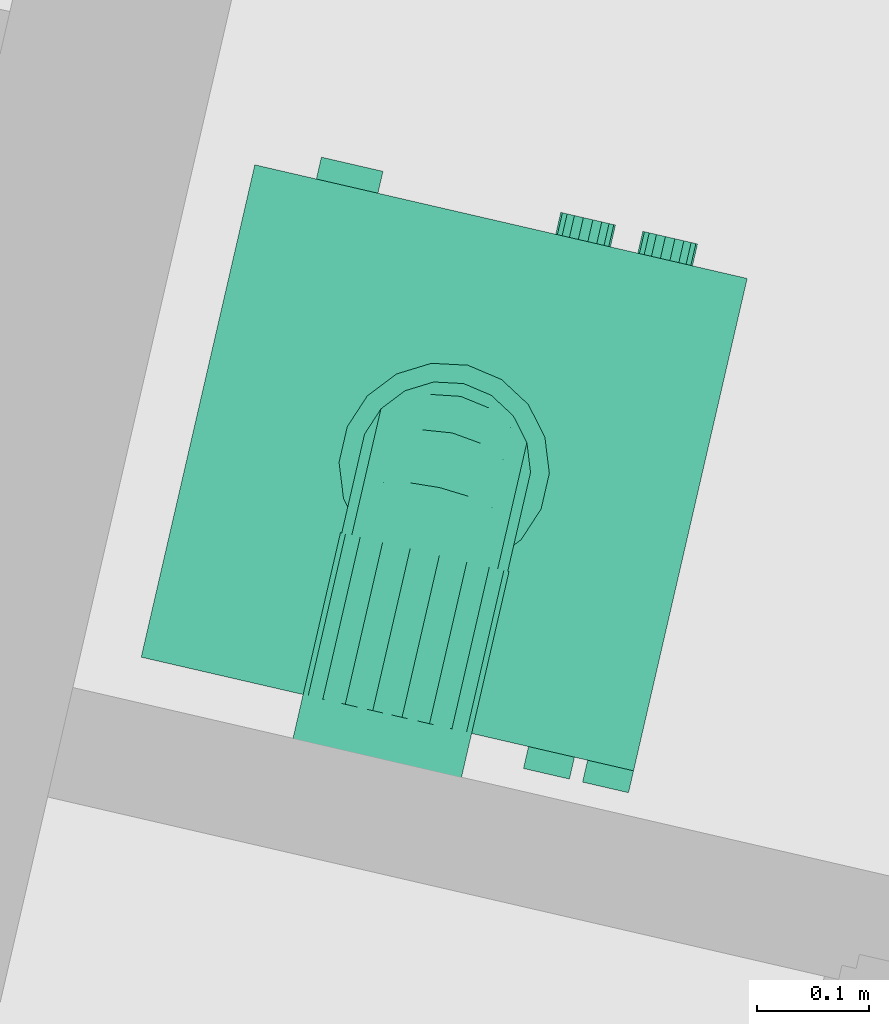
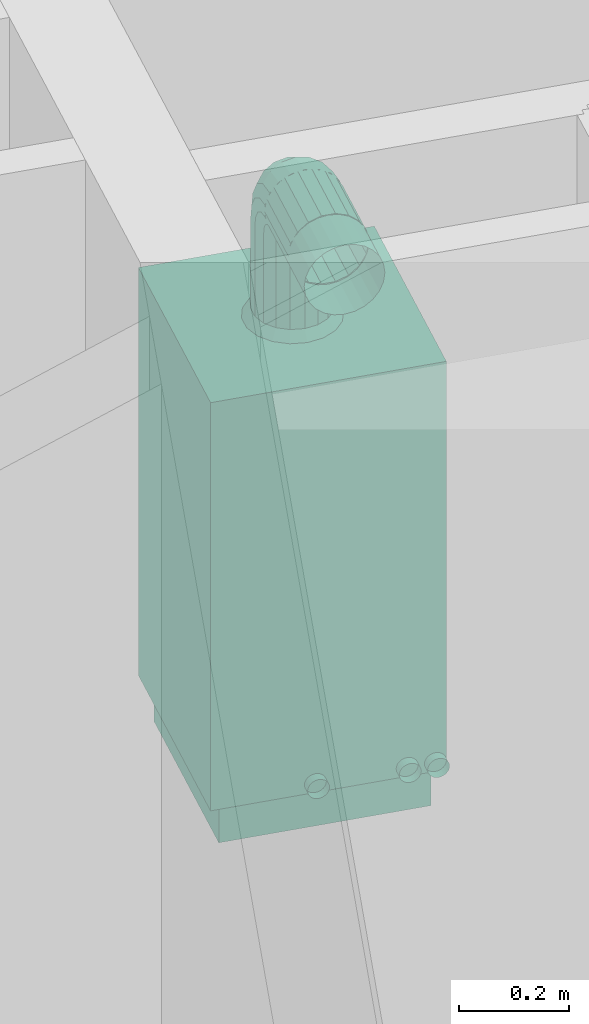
# One storey, part 48 of 62: 1 energy conversion device.
"""IFC2X3 building model written with IfcOpenShell, lengths in metres."""

from ifc_helpers import new_model, entity, si_unit, converted_unit, derived_unit, money_unit, direction, frame, origin_with_axes, place, context, subcontext, project, spatial, open_shell, faceted_brep, surface_model, source, transform, mapped, type_object, element, save


model = new_model("IFC2X3")

# Units and contexts
model_context = context("Model", 3, precision=1e-05, world=origin_with_axes(), true_north=direction((0.0, 1.0)))
body_context = subcontext(model_context, "Body", "Model", "MODEL_VIEW")
ifc_project = project(units=[si_unit("LENGTHUNIT", "METRE"), si_unit("AREAUNIT", "SQUARE_METRE"), si_unit("VOLUMEUNIT", "CUBIC_METRE"), converted_unit("PLANEANGLEUNIT", "DEGREE", entity("IfcPlaneAngleMeasure", 0.0174532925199), si_unit("PLANEANGLEUNIT", "RADIAN"), dimensions=[0, 0, 0, 0, 0, 0, 0]), si_unit("SOLIDANGLEUNIT", "STERADIAN"), money_unit("EUR"), converted_unit("TIMEUNIT", "Year", entity("IfcTimeMeasure", 31556926.0), si_unit("TIMEUNIT", "SECOND"), dimensions=[0, 0, 1, 0, 0, 0, 0]), si_unit("MASSUNIT", "GRAM", prefix="KILO"), si_unit("THERMODYNAMICTEMPERATUREUNIT", "DEGREE_CELSIUS"), si_unit("LUMINOUSINTENSITYUNIT", "LUMEN"), si_unit("ENERGYUNIT", "JOULE", prefix="MEGA"), derived_unit("THERMALCONDUCTANCEUNIT", [(si_unit("POWERUNIT", "WATT"), 1), (si_unit("LENGTHUNIT", "METRE"), -1), (si_unit("THERMODYNAMICTEMPERATUREUNIT", "KELVIN"), -1)]), derived_unit("SPECIFICHEATCAPACITYUNIT", [(si_unit("ENERGYUNIT", "JOULE"), 1), (si_unit("MASSUNIT", "GRAM", prefix="KILO"), -1), (si_unit("THERMODYNAMICTEMPERATUREUNIT", "KELVIN"), -1)]), derived_unit("MASSDENSITYUNIT", [(si_unit("MASSUNIT", "GRAM", prefix="KILO"), 1), (si_unit("VOLUMEUNIT", "CUBIC_METRE"), -1)])], contexts=[model_context])

# Site, building, storey
site_placement = place(None, origin_with_axes())
site = spatial("IfcSite", under=ifc_project, at=site_placement, Name="Site", CompositionType="ELEMENT")
building_placement = place(site_placement, origin_with_axes())
building = spatial("IfcBuilding", under=site, at=building_placement, Name="Bâtiment", CompositionType="ELEMENT")
storey_placement = place(building_placement, frame((0.0, 0.0, 8.16), z_axis=(0.0, 0.0, 1.0), x_axis=(1.0, 0.0, 0.0)))
storey = spatial("IfcBuildingStorey", under=building, at=storey_placement, Name="R+3", CompositionType="ELEMENT", Elevation=8.16)

# Energy conversion device
boiler_type = type_object("IfcBoilerType", Name="Chaudière à gaz 23", PredefinedType="WATER")
shared_shape = source(origin_with_axes(), body_context, "Body", "SurfaceModel", [
    surface_model("IfcShellBasedSurfaceModel", [(-0.2, 0.45, 0.090909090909), (-0.2, 0.47, 0.090909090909), (-0.194564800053, 0.47, 0.0916246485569), (-0.194564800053, 0.45, 0.0916246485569), (-0.205435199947, 0.45, 0.0916246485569), (-0.205435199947, 0.47, 0.0916246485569), (-0.1895, 0.47, 0.0937225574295), (-0.1895, 0.45, 0.0937225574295), (-0.2105, 0.45, 0.0937225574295), (-0.2105, 0.47, 0.0937225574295), (-0.185150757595, 0.47, 0.0970598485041), (-0.185150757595, 0.45, 0.0970598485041), (-0.214849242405, 0.45, 0.0970598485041), (-0.214849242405, 0.47, 0.0970598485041), (-0.181813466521, 0.47, 0.101409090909), (-0.181813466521, 0.45, 0.101409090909), (-0.218186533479, 0.45, 0.101409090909), (-0.218186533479, 0.47, 0.101409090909), (-0.179715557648, 0.47, 0.106473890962), (-0.179715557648, 0.45, 0.106473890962), (-0.220284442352, 0.45, 0.106473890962), (-0.220284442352, 0.47, 0.106473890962), (-0.179, 0.47, 0.111909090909), (-0.179, 0.45, 0.111909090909), (-0.221, 0.45, 0.111909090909), (-0.221, 0.47, 0.111909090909), (-0.179715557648, 0.47, 0.117344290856), (-0.179715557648, 0.45, 0.117344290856), (-0.220284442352, 0.45, 0.117344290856), (-0.220284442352, 0.47, 0.117344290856), (-0.181813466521, 0.47, 0.122409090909), (-0.181813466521, 0.45, 0.122409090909), (-0.218186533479, 0.45, 0.122409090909), (-0.218186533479, 0.47, 0.122409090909), (-0.185150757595, 0.47, 0.126758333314), (-0.185150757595, 0.45, 0.126758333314), (-0.214849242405, 0.45, 0.126758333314), (-0.214849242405, 0.47, 0.126758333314), (-0.1895, 0.47, 0.130095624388), (-0.1895, 0.45, 0.130095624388), (-0.2105, 0.45, 0.130095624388), (-0.2105, 0.47, 0.130095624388), (-0.194564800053, 0.47, 0.132193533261), (-0.194564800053, 0.45, 0.132193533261), (-0.205435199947, 0.45, 0.132193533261), (-0.205435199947, 0.47, 0.132193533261), (-0.2, 0.47, 0.132909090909), (-0.2, 0.45, 0.132909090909)], [open_shell([[[0, 1, 2, 3]], [[4, 5, 1, 0]], [[3, 2, 6, 7]], [[8, 9, 5, 4]], [[7, 6, 10, 11]], [[12, 13, 9, 8]], [[11, 10, 14, 15]], [[16, 17, 13, 12]], [[15, 14, 18, 19]], [[20, 21, 17, 16]], [[19, 18, 22, 23]], [[24, 25, 21, 20]], [[23, 22, 26, 27]], [[28, 29, 25, 24]], [[27, 26, 30, 31]], [[32, 33, 29, 28]], [[31, 30, 34, 35]], [[36, 37, 33, 32]], [[35, 34, 38, 39]], [[40, 41, 37, 36]], [[39, 38, 42, 43]], [[44, 45, 41, 40]], [[43, 42, 46, 47]], [[47, 46, 45, 44]]])]),
    surface_model("IfcShellBasedSurfaceModel", [(-0.375, 0.45, 0.090909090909), (-0.375, 0.47, 0.090909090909), (-0.369564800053, 0.47, 0.0916246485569), (-0.369564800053, 0.45, 0.0916246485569), (-0.380435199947, 0.45, 0.0916246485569), (-0.380435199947, 0.47, 0.0916246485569), (-0.3645, 0.47, 0.0937225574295), (-0.3645, 0.45, 0.0937225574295), (-0.3855, 0.45, 0.0937225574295), (-0.3855, 0.47, 0.0937225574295), (-0.360150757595, 0.47, 0.0970598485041), (-0.360150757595, 0.45, 0.0970598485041), (-0.389849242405, 0.45, 0.0970598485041), (-0.389849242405, 0.47, 0.0970598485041), (-0.356813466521, 0.47, 0.101409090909), (-0.356813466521, 0.45, 0.101409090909), (-0.393186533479, 0.45, 0.101409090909), (-0.393186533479, 0.47, 0.101409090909), (-0.354715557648, 0.47, 0.106473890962), (-0.354715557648, 0.45, 0.106473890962), (-0.395284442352, 0.45, 0.106473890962), (-0.395284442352, 0.47, 0.106473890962), (-0.354, 0.47, 0.111909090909), (-0.354, 0.45, 0.111909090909), (-0.396, 0.45, 0.111909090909), (-0.396, 0.47, 0.111909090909), (-0.354715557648, 0.47, 0.117344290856), (-0.354715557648, 0.45, 0.117344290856), (-0.395284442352, 0.45, 0.117344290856), (-0.395284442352, 0.47, 0.117344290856), (-0.356813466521, 0.47, 0.122409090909), (-0.356813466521, 0.45, 0.122409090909), (-0.393186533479, 0.45, 0.122409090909), (-0.393186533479, 0.47, 0.122409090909), (-0.360150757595, 0.47, 0.126758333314), (-0.360150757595, 0.45, 0.126758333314), (-0.389849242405, 0.45, 0.126758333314), (-0.389849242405, 0.47, 0.126758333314), (-0.3645, 0.47, 0.130095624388), (-0.3645, 0.45, 0.130095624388), (-0.3855, 0.45, 0.130095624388), (-0.3855, 0.47, 0.130095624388), (-0.369564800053, 0.47, 0.132193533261), (-0.369564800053, 0.45, 0.132193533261), (-0.380435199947, 0.45, 0.132193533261), (-0.380435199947, 0.47, 0.132193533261), (-0.375, 0.47, 0.132909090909), (-0.375, 0.45, 0.132909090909)], [open_shell([[[0, 1, 2, 3]], [[4, 5, 1, 0]], [[3, 2, 6, 7]], [[8, 9, 5, 4]], [[7, 6, 10, 11]], [[12, 13, 9, 8]], [[11, 10, 14, 15]], [[16, 17, 13, 12]], [[15, 14, 18, 19]], [[20, 21, 17, 16]], [[19, 18, 22, 23]], [[24, 25, 21, 20]], [[23, 22, 26, 27]], [[28, 29, 25, 24]], [[27, 26, 30, 31]], [[32, 33, 29, 28]], [[31, 30, 34, 35]], [[36, 37, 33, 32]], [[35, 34, 38, 39]], [[40, 41, 37, 36]], [[39, 38, 42, 43]], [[44, 45, 41, 40]], [[43, 42, 46, 47]], [[47, 46, 45, 44]]])]),
    surface_model("IfcShellBasedSurfaceModel", [(-0.429, 0.45, 0.090909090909), (-0.429, 0.47, 0.090909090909), (-0.423564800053, 0.47, 0.0916246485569), (-0.423564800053, 0.45, 0.0916246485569), (-0.434435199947, 0.45, 0.0916246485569), (-0.434435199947, 0.47, 0.0916246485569), (-0.4185, 0.47, 0.0937225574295), (-0.4185, 0.45, 0.0937225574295), (-0.4395, 0.45, 0.0937225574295), (-0.4395, 0.47, 0.0937225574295), (-0.414150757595, 0.47, 0.0970598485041), (-0.414150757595, 0.45, 0.0970598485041), (-0.443849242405, 0.45, 0.0970598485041), (-0.443849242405, 0.47, 0.0970598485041), (-0.410813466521, 0.47, 0.101409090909), (-0.410813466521, 0.45, 0.101409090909), (-0.447186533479, 0.45, 0.101409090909), (-0.447186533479, 0.47, 0.101409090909), (-0.408715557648, 0.47, 0.106473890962), (-0.408715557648, 0.45, 0.106473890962), (-0.449284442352, 0.45, 0.106473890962), (-0.449284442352, 0.47, 0.106473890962), (-0.408, 0.47, 0.111909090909), (-0.408, 0.45, 0.111909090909), (-0.45, 0.45, 0.111909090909), (-0.45, 0.47, 0.111909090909), (-0.408715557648, 0.47, 0.117344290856), (-0.408715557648, 0.45, 0.117344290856), (-0.449284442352, 0.45, 0.117344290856), (-0.449284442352, 0.47, 0.117344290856), (-0.410813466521, 0.47, 0.122409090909), (-0.410813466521, 0.45, 0.122409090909), (-0.447186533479, 0.45, 0.122409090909), (-0.447186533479, 0.47, 0.122409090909), (-0.414150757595, 0.47, 0.126758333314), (-0.414150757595, 0.45, 0.126758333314), (-0.443849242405, 0.45, 0.126758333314), (-0.443849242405, 0.47, 0.126758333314), (-0.4185, 0.47, 0.130095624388), (-0.4185, 0.45, 0.130095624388), (-0.4395, 0.45, 0.130095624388), (-0.4395, 0.47, 0.130095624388), (-0.423564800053, 0.47, 0.132193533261), (-0.423564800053, 0.45, 0.132193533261), (-0.434435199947, 0.45, 0.132193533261), (-0.434435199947, 0.47, 0.132193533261), (-0.429, 0.47, 0.132909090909), (-0.429, 0.45, 0.132909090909)], [open_shell([[[0, 1, 2, 3]], [[4, 5, 1, 0]], [[3, 2, 6, 7]], [[8, 9, 5, 4]], [[7, 6, 10, 11]], [[12, 13, 9, 8]], [[11, 10, 14, 15]], [[16, 17, 13, 12]], [[15, 14, 18, 19]], [[20, 21, 17, 16]], [[19, 18, 22, 23]], [[24, 25, 21, 20]], [[23, 22, 26, 27]], [[28, 29, 25, 24]], [[27, 26, 30, 31]], [[32, 33, 29, 28]], [[31, 30, 34, 35]], [[36, 37, 33, 32]], [[35, 34, 38, 39]], [[40, 41, 37, 36]], [[39, 38, 42, 43]], [[44, 45, 41, 40]], [[43, 42, 46, 47]], [[47, 46, 45, 44]]])]),
    surface_model("IfcShellBasedSurfaceModel", [(-0.225, 0.45, 1.218), (-0.225, 0.55, 1.218), (-0.205070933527, 0.55, 1.22062371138), (-0.205070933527, 0.45, 1.22062371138), (-0.244929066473, 0.45, 1.22062371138), (-0.244929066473, 0.55, 1.22062371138), (-0.1865, 0.55, 1.22831604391), (-0.1865, 0.45, 1.22831604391), (-0.2635, 0.45, 1.22831604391), (-0.2635, 0.55, 1.22831604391), (-0.170552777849, 0.55, 1.24055277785), (-0.170552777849, 0.45, 1.24055277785), (-0.279447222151, 0.45, 1.24055277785), (-0.279447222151, 0.55, 1.24055277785), (-0.158316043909, 0.55, 1.2565), (-0.158316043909, 0.45, 1.2565), (-0.291683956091, 0.45, 1.2565), (-0.291683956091, 0.55, 1.2565), (-0.150623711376, 0.55, 1.27507093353), (-0.150623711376, 0.45, 1.27507093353), (-0.299376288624, 0.45, 1.27507093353), (-0.299376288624, 0.55, 1.27507093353), (-0.148, 0.55, 1.295), (-0.148, 0.45, 1.295), (-0.302, 0.45, 1.295), (-0.302, 0.55, 1.295), (-0.150623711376, 0.55, 1.31492906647), (-0.150623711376, 0.45, 1.31492906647), (-0.299376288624, 0.45, 1.31492906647), (-0.299376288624, 0.55, 1.31492906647), (-0.158316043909, 0.55, 1.3335), (-0.158316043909, 0.45, 1.3335), (-0.291683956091, 0.45, 1.3335), (-0.291683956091, 0.55, 1.3335), (-0.170552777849, 0.55, 1.34944722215), (-0.170552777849, 0.45, 1.34944722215), (-0.279447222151, 0.45, 1.34944722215), (-0.279447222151, 0.55, 1.34944722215), (-0.1865, 0.55, 1.36168395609), (-0.1865, 0.45, 1.36168395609), (-0.2635, 0.45, 1.36168395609), (-0.2635, 0.55, 1.36168395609), (-0.205070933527, 0.55, 1.36937628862), (-0.205070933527, 0.45, 1.36937628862), (-0.244929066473, 0.45, 1.36937628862), (-0.244929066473, 0.55, 1.36937628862), (-0.225, 0.55, 1.372), (-0.225, 0.45, 1.372)], [open_shell([[[0, 1, 2, 3]], [[4, 5, 1, 0]], [[3, 2, 6, 7]], [[8, 9, 5, 4]], [[7, 6, 10, 11]], [[12, 13, 9, 8]], [[11, 10, 14, 15]], [[16, 17, 13, 12]], [[15, 14, 18, 19]], [[20, 21, 17, 16]], [[19, 18, 22, 23]], [[24, 25, 21, 20]], [[23, 22, 26, 27]], [[28, 29, 25, 24]], [[27, 26, 30, 31]], [[32, 33, 29, 28]], [[31, 30, 34, 35]], [[36, 37, 33, 32]], [[35, 34, 38, 39]], [[40, 41, 37, 36]], [[39, 38, 42, 43]], [[44, 45, 41, 40]], [[43, 42, 46, 47]], [[47, 46, 45, 44]]])]),
    faceted_brep([(-0.4275, 0.0225, 0.0), (-0.4275, 0.4275, 0.0), (-0.0225, 0.4275, 0.0), (-0.0225, 0.0225, 0.0), (-0.4275, 0.0225, 0.0909090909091), (-0.4275, 0.4275, 0.0909090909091), (-0.0225, 0.4275, 0.0909090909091), (-0.0225, 0.0225, 0.0909090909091)], [[[0, 1, 2, 3]], [[0, 4, 5, 1]], [[1, 5, 6, 2]], [[2, 6, 7, 3]], [[3, 7, 4, 0]], [[7, 6, 5, 4]]]),
    faceted_brep([(0.0, 0.45, 0.0909090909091), (-0.45, 0.45, 0.0909090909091), (-0.45, 0.45, 1.0), (0.0, 0.45, 1.0), (0.0, 0.0, 0.0909090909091), (-0.45, 0.0, 0.0909090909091), (-0.45, 0.0, 0.818181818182), (-0.45, 0.0225, 0.818181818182), (-0.45, 0.0225, 1.0), (0.0, 0.0225, 1.0), (0.0, 0.0225, 0.818181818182), (0.0, 0.0, 0.818181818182)], [[[0, 1, 2, 3]], [[4, 5, 1, 0]], [[1, 5, 6, 7, 8, 2]], [[3, 2, 8, 9]], [[0, 3, 9, 10, 11, 4]], [[11, 6, 5, 4]], [[10, 7, 6, 11]], [[9, 8, 7, 10]]]),
    faceted_brep([(-0.45, 0.0, 0.818181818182), (-0.45, 0.0225, 0.818181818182), (0.0, 0.0225, 0.818181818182), (0.0, 0.0, 0.818181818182), (-0.45, 0.0, 1.0), (-0.45, 0.0225, 1.0), (0.0, 0.0225, 1.0), (0.0, 0.0, 1.0)], [[[0, 1, 2, 3]], [[0, 4, 5, 1]], [[1, 5, 6, 2]], [[2, 6, 7, 3]], [[3, 7, 4, 0]], [[7, 6, 5, 4]]]),
    faceted_brep([(-0.32349231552, 0.0, 0.900540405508), (-0.325, 0.0, 0.909090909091), (-0.32349231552, 0.0, 0.917641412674), (-0.319151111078, 0.0, 0.925160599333), (-0.3125, 0.0, 0.930741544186), (-0.304341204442, 0.0, 0.933711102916), (-0.295658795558, 0.0, 0.933711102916), (-0.2875, 0.0, 0.930741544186), (-0.280848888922, 0.0, 0.925160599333), (-0.27650768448, 0.0, 0.917641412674), (-0.275, 0.0, 0.909090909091), (-0.27650768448, 0.0, 0.900540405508), (-0.280848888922, 0.0, 0.893021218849), (-0.2875, 0.0, 0.887440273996), (-0.295658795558, 0.0, 0.884470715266), (-0.304341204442, 0.0, 0.884470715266), (-0.3125, 0.0, 0.887440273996), (-0.319151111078, 0.0, 0.893021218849), (-0.32349231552, -0.02, 0.900540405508), (-0.325, -0.02, 0.909090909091), (-0.32349231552, -0.02, 0.917641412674), (-0.319151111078, -0.02, 0.925160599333), (-0.3125, -0.02, 0.930741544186), (-0.304341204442, -0.02, 0.933711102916), (-0.295658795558, -0.02, 0.933711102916), (-0.2875, -0.02, 0.930741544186), (-0.280848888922, -0.02, 0.925160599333), (-0.27650768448, -0.02, 0.917641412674), (-0.275, -0.02, 0.909090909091), (-0.27650768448, -0.02, 0.900540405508), (-0.280848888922, -0.02, 0.893021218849), (-0.2875, -0.02, 0.887440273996), (-0.295658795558, -0.02, 0.884470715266), (-0.304341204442, -0.02, 0.884470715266), (-0.3125, -0.02, 0.887440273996), (-0.319151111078, -0.02, 0.893021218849)], [[[0, 1, 2, 3, 4, 5, 6, 7, 8, 9, 10, 11, 12, 13, 14, 15, 16, 17]], [[0, 18, 19, 1]], [[1, 19, 20, 2]], [[2, 20, 21, 3]], [[3, 21, 22, 4]], [[4, 22, 23, 5]], [[5, 23, 24, 6]], [[6, 24, 25, 7]], [[7, 25, 26, 8]], [[8, 26, 27, 9]], [[9, 27, 28, 10]], [[10, 28, 29, 11]], [[11, 29, 30, 12]], [[12, 30, 31, 13]], [[13, 31, 32, 14]], [[14, 32, 33, 15]], [[15, 33, 34, 16]], [[16, 34, 35, 17]], [[17, 35, 18, 0]], [[18, 35, 34, 33, 32, 31, 30, 29, 28, 27, 26, 25, 24, 23, 22, 21, 20, 19]]]),
    faceted_brep([(-0.39849231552, 0.0, 0.900540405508), (-0.4, 0.0, 0.909090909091), (-0.39849231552, 0.0, 0.917641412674), (-0.394151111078, 0.0, 0.925160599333), (-0.3875, 0.0, 0.930741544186), (-0.379341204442, 0.0, 0.933711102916), (-0.370658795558, 0.0, 0.933711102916), (-0.3625, 0.0, 0.930741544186), (-0.355848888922, 0.0, 0.925160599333), (-0.35150768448, 0.0, 0.917641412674), (-0.35, 0.0, 0.909090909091), (-0.35150768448, 0.0, 0.900540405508), (-0.355848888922, 0.0, 0.893021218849), (-0.3625, 0.0, 0.887440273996), (-0.370658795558, 0.0, 0.884470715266), (-0.379341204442, 0.0, 0.884470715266), (-0.3875, 0.0, 0.887440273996), (-0.394151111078, 0.0, 0.893021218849), (-0.39849231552, -0.02, 0.900540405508), (-0.4, -0.02, 0.909090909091), (-0.39849231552, -0.02, 0.917641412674), (-0.394151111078, -0.02, 0.925160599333), (-0.3875, -0.02, 0.930741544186), (-0.379341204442, -0.02, 0.933711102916), (-0.370658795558, -0.02, 0.933711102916), (-0.3625, -0.02, 0.930741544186), (-0.355848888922, -0.02, 0.925160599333), (-0.35150768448, -0.02, 0.917641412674), (-0.35, -0.02, 0.909090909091), (-0.35150768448, -0.02, 0.900540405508), (-0.355848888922, -0.02, 0.893021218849), (-0.3625, -0.02, 0.887440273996), (-0.370658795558, -0.02, 0.884470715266), (-0.379341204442, -0.02, 0.884470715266), (-0.3875, -0.02, 0.887440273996), (-0.394151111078, -0.02, 0.893021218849)], [[[0, 1, 2, 3, 4, 5, 6, 7, 8, 9, 10, 11, 12, 13, 14, 15, 16, 17]], [[0, 18, 19, 1]], [[1, 19, 20, 2]], [[2, 20, 21, 3]], [[3, 21, 22, 4]], [[4, 22, 23, 5]], [[5, 23, 24, 6]], [[6, 24, 25, 7]], [[7, 25, 26, 8]], [[8, 26, 27, 9]], [[9, 27, 28, 10]], [[10, 28, 29, 11]], [[11, 29, 30, 12]], [[12, 30, 31, 13]], [[13, 31, 32, 14]], [[14, 32, 33, 15]], [[15, 33, 34, 16]], [[16, 34, 35, 17]], [[17, 35, 18, 0]], [[18, 35, 34, 33, 32, 31, 30, 29, 28, 27, 26, 25, 24, 23, 22, 21, 20, 19]]]),
    faceted_brep([(-0.1125, 0.0, 0.878787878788), (-0.1125, 0.0, 0.939393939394), (-0.05625, 0.0, 0.939393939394), (-0.05625, 0.0, 0.878787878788), (-0.1125, -0.02, 0.878787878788), (-0.1125, -0.02, 0.939393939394), (-0.05625, -0.02, 0.939393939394), (-0.05625, -0.02, 0.878787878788)], [[[0, 1, 2, 3]], [[0, 4, 5, 1]], [[1, 5, 6, 2]], [[2, 6, 7, 3]], [[3, 7, 4, 0]], [[7, 6, 5, 4]]]),
    surface_model("IfcShellBasedSurfaceModel", [(-0.198664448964, 0.297356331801, 1.22), (-0.198664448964, 0.297356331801, 1.02), (-0.225, 0.302, 1.02), (-0.225, 0.302, 1.22), (-0.175505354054, 0.28398542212, 1.22), (-0.175505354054, 0.28398542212, 1.02), (-0.192935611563, 0.313096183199, 1.0), (-0.225, 0.31875, 1.0), (-0.251335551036, 0.297356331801, 1.02), (-0.251335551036, 0.297356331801, 1.22), (-0.158316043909, 0.2635, 1.22), (-0.158316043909, 0.2635, 1.02), (-0.164738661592, 0.296816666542, 1.0), (-0.257064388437, 0.313096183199, 1.0), (-0.274494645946, 0.28398542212, 1.02), (-0.274494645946, 0.28398542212, 1.22), (-0.149169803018, 0.23837090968, 1.22), (-0.149169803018, 0.23837090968, 1.02), (-0.143810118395, 0.271875, 1.0), (-0.285261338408, 0.296816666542, 1.0), (-0.291683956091, 0.2635, 1.02), (-0.291683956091, 0.2635, 1.22), (-0.149169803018, 0.21162909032, 1.22), (-0.149169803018, 0.21162909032, 1.02), (-0.132674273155, 0.241279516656, 1.0), (-0.306189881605, 0.271875, 1.0), (-0.300830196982, 0.23837090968, 1.02), (-0.300830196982, 0.23837090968, 1.22), (-0.158316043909, 0.1865, 1.22), (-0.158316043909, 0.1865, 1.02), (-0.132674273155, 0.208720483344, 1.0), (-0.317325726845, 0.241279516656, 1.0), (-0.300830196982, 0.21162909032, 1.02), (-0.300830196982, 0.21162909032, 1.22), (-0.175505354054, 0.16601457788, 1.22), (-0.175505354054, 0.16601457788, 1.02), (-0.143810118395, 0.178125, 1.0), (-0.317325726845, 0.208720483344, 1.0), (-0.291683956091, 0.1865, 1.02), (-0.291683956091, 0.1865, 1.22), (-0.198664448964, 0.152643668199, 1.22), (-0.198664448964, 0.152643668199, 1.02), (-0.164738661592, 0.153183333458, 1.0), (-0.306189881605, 0.178125, 1.0), (-0.274494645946, 0.16601457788, 1.02), (-0.274494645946, 0.16601457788, 1.22), (-0.225, 0.148, 1.22), (-0.225, 0.148, 1.02), (-0.192935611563, 0.136903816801, 1.0), (-0.285261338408, 0.153183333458, 1.0), (-0.251335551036, 0.152643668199, 1.02), (-0.251335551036, 0.152643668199, 1.22), (-0.225, 0.13125, 1.0), (-0.257064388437, 0.136903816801, 1.0)], [open_shell([[[0, 1, 2, 3]], [[4, 5, 1, 0]], [[1, 6, 7, 2]], [[3, 2, 8, 9]], [[10, 11, 5, 4]], [[5, 12, 6, 1]], [[2, 7, 13, 8]], [[9, 8, 14, 15]], [[16, 17, 11, 10]], [[11, 18, 12, 5]], [[8, 13, 19, 14]], [[15, 14, 20, 21]], [[22, 23, 17, 16]], [[17, 24, 18, 11]], [[14, 19, 25, 20]], [[21, 20, 26, 27]], [[28, 29, 23, 22]], [[23, 30, 24, 17]], [[20, 25, 31, 26]], [[27, 26, 32, 33]], [[34, 35, 29, 28]], [[29, 36, 30, 23]], [[26, 31, 37, 32]], [[33, 32, 38, 39]], [[40, 41, 35, 34]], [[35, 42, 36, 29]], [[32, 37, 43, 38]], [[39, 38, 44, 45]], [[46, 47, 41, 40]], [[41, 48, 42, 35]], [[38, 43, 49, 44]], [[45, 44, 50, 51]], [[51, 50, 47, 46]], [[47, 52, 48, 41]], [[44, 49, 53, 50]], [[50, 53, 52, 47]]])]),
    faceted_brep([(-0.300830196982, 0.218508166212, 1.2545834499), (-0.300830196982, 0.21162909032, 1.22), (-0.291683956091, 0.1865, 1.22), (-0.291683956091, 0.195291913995, 1.26419993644), (-0.300830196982, 0.243214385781, 1.24434979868), (-0.300830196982, 0.23837090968, 1.22), (-0.291683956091, 0.2635, 1.22), (-0.274494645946, 0.28398542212, 1.22), (-0.251335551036, 0.297356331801, 1.22), (-0.225, 0.302, 1.22), (-0.198664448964, 0.297356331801, 1.22), (-0.175505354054, 0.28398542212, 1.22), (-0.158316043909, 0.2635, 1.22), (-0.149169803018, 0.23837090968, 1.22), (-0.149169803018, 0.21162909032, 1.22), (-0.158316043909, 0.1865, 1.22), (-0.175505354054, 0.16601457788, 1.22), (-0.198664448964, 0.152643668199, 1.22), (-0.225, 0.148, 1.22), (-0.251335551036, 0.152643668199, 1.22), (-0.274494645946, 0.16601457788, 1.22), (-0.274494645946, 0.176365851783, 1.27203936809), (-0.300830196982, 0.238098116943, 1.28390188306), (-0.291683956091, 0.220329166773, 1.30167083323), (-0.300830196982, 0.257007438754, 1.26499256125), (-0.291683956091, 0.266430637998, 1.23473331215), (-0.274494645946, 0.28535670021, 1.2268938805), (-0.251335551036, 0.297709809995, 1.22177705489), (-0.198664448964, 0.297709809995, 1.22177705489), (-0.175505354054, 0.28535670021, 1.2268938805), (-0.158316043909, 0.266430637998, 1.23473331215), (-0.149169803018, 0.243214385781, 1.24434979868), (-0.149169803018, 0.218508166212, 1.2545834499), (-0.158316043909, 0.195291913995, 1.26419993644), (-0.175505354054, 0.176365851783, 1.27203936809), (-0.198664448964, 0.164012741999, 1.2771561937), (-0.225, 0.159722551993, 1.27893324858), (-0.251335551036, 0.164012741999, 1.2771561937), (-0.274494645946, 0.205843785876, 1.31615621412), (-0.291683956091, 0.257800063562, 1.32670808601), (-0.300830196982, 0.267416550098, 1.30349183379), (-0.300830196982, 0.277650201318, 1.27878561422), (-0.291683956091, 0.274776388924, 1.24722361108), (-0.274494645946, 0.289261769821, 1.23273823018), (-0.251335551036, 0.298716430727, 1.22328356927), (-0.198664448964, 0.298716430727, 1.22328356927), (-0.175505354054, 0.289261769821, 1.23273823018), (-0.158316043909, 0.274776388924, 1.24722361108), (-0.149169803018, 0.257007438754, 1.26499256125), (-0.149169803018, 0.238098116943, 1.28390188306), (-0.158316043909, 0.220329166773, 1.30167083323), (-0.175505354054, 0.205843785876, 1.31615621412), (-0.198664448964, 0.196389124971, 1.32561087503), (-0.225, 0.193105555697, 1.3288944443), (-0.251335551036, 0.196389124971, 1.32561087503), (-0.274494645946, 0.249960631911, 1.34563414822), (-0.291683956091, 0.302, 1.3355), (-0.300830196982, 0.302, 1.31037090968), (-0.300830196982, 0.302, 1.28362909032), (-0.291683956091, 0.287266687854, 1.255569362), (-0.274494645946, 0.295106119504, 1.23664329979), (-0.251335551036, 0.300222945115, 1.22429019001), (-0.198664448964, 0.300222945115, 1.22429019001), (-0.175505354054, 0.295106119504, 1.23664329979), (-0.158316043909, 0.287266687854, 1.255569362), (-0.149169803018, 0.277650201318, 1.27878561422), (-0.149169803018, 0.267416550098, 1.30349183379), (-0.158316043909, 0.257800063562, 1.32670808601), (-0.175505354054, 0.249960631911, 1.34563414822), (-0.198664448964, 0.244843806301, 1.357987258), (-0.225, 0.243066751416, 1.36227744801), (-0.251335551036, 0.244843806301, 1.357987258), (-0.274494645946, 0.302, 1.35598542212), (-0.291683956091, 0.302, 1.2585), (-0.251335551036, 0.302, 1.3693563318), (-0.225, 0.302, 1.374), (-0.198664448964, 0.302, 1.3693563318), (-0.175505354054, 0.302, 1.35598542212), (-0.158316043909, 0.302, 1.3355), (-0.149169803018, 0.302, 1.31037090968), (-0.149169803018, 0.302, 1.28362909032), (-0.158316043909, 0.302, 1.2585), (-0.175505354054, 0.302, 1.23801457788), (-0.198664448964, 0.302, 1.2246436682), (-0.251335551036, 0.302, 1.2246436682), (-0.274494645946, 0.302, 1.23801457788)], [[[0, 1, 2, 3]], [[1, 0, 4, 5]], [[2, 1, 5, 6, 7, 8, 9, 10, 11, 12, 13, 14, 15, 16, 17, 18, 19, 20]], [[3, 2, 20, 21]], [[22, 0, 3, 23]], [[0, 22, 24, 4]], [[6, 5, 4, 25]], [[26, 7, 6, 25]], [[7, 26, 27, 8]], [[8, 27, 9]], [[28, 10, 9]], [[10, 28, 29, 11]], [[30, 12, 11, 29]], [[12, 30, 31, 13]], [[32, 14, 13, 31]], [[15, 14, 32, 33]], [[34, 16, 15, 33]], [[17, 16, 34, 35]], [[36, 18, 17, 35]], [[19, 18, 36, 37]], [[21, 20, 19, 37]], [[23, 3, 21, 38]], [[22, 23, 39, 40]], [[24, 22, 40, 41]], [[4, 24, 42, 25]], [[43, 26, 25, 42]], [[26, 43, 44, 27]], [[27, 44, 9]], [[45, 28, 9]], [[28, 45, 46, 29]], [[29, 46, 47, 30]], [[31, 30, 47, 48]], [[49, 32, 31, 48]], [[32, 49, 50, 33]], [[51, 34, 33, 50]], [[35, 34, 51, 52]], [[53, 36, 35, 52]], [[54, 37, 36, 53]], [[38, 21, 37, 54]], [[39, 23, 38, 55]], [[40, 39, 56, 57]], [[41, 40, 57, 58]], [[59, 42, 24, 41]], [[42, 59, 60, 43]], [[43, 60, 61, 44]], [[44, 61, 9]], [[62, 45, 9]], [[45, 62, 63, 46]], [[46, 63, 64, 47]], [[47, 64, 65, 48]], [[66, 49, 48, 65]], [[50, 49, 66, 67]], [[68, 51, 50, 67]], [[52, 51, 68, 69]], [[53, 52, 69, 70]], [[71, 54, 53, 70]], [[55, 38, 54, 71]], [[56, 39, 55, 72]], [[73, 58, 57, 56, 72, 74, 75, 76, 77, 78, 79, 80, 81, 82, 83, 9, 84, 85]], [[59, 41, 58, 73]], [[59, 73, 85, 60]], [[60, 85, 84, 61]], [[61, 84, 9]], [[62, 9, 83]], [[63, 62, 83, 82]], [[63, 82, 81, 64]], [[65, 64, 81, 80]], [[66, 65, 80, 79]], [[67, 66, 79, 78]], [[77, 68, 67, 78]], [[69, 68, 77, 76]], [[75, 70, 69, 76]], [[71, 70, 75, 74]], [[72, 55, 71, 74]]]),
    surface_model("IfcShellBasedSurfaceModel", [(-0.152643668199, 0.45, 1.32333555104), (-0.152643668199, 0.302, 1.32333555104), (-0.148, 0.302, 1.297), (-0.148, 0.45, 1.297), (-0.16601457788, 0.45, 1.34649464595), (-0.16601457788, 0.302, 1.34649464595), (-0.152643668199, 0.302, 1.27066444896), (-0.152643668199, 0.45, 1.27066444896), (-0.1865, 0.45, 1.36368395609), (-0.1865, 0.302, 1.36368395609), (-0.16601457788, 0.302, 1.24750535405), (-0.16601457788, 0.45, 1.24750535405), (-0.21162909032, 0.45, 1.37283019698), (-0.21162909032, 0.302, 1.37283019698), (-0.1865, 0.302, 1.23031604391), (-0.1865, 0.45, 1.23031604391), (-0.23837090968, 0.45, 1.37283019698), (-0.23837090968, 0.302, 1.37283019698), (-0.21162909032, 0.302, 1.22116980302), (-0.21162909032, 0.45, 1.22116980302), (-0.2635, 0.45, 1.36368395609), (-0.2635, 0.302, 1.36368395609), (-0.23837090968, 0.302, 1.22116980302), (-0.23837090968, 0.45, 1.22116980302), (-0.28398542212, 0.45, 1.34649464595), (-0.28398542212, 0.302, 1.34649464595), (-0.2635, 0.302, 1.23031604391), (-0.2635, 0.45, 1.23031604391), (-0.297356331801, 0.45, 1.32333555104), (-0.297356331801, 0.302, 1.32333555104), (-0.28398542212, 0.302, 1.24750535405), (-0.28398542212, 0.45, 1.24750535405), (-0.302, 0.45, 1.297), (-0.302, 0.302, 1.297), (-0.297356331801, 0.302, 1.27066444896), (-0.297356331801, 0.45, 1.27066444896)], [open_shell([[[0, 1, 2, 3]], [[4, 5, 1, 0]], [[3, 2, 6, 7]], [[8, 9, 5, 4]], [[7, 6, 10, 11]], [[12, 13, 9, 8]], [[11, 10, 14, 15]], [[16, 17, 13, 12]], [[15, 14, 18, 19]], [[20, 21, 17, 16]], [[19, 18, 22, 23]], [[24, 25, 21, 20]], [[23, 22, 26, 27]], [[28, 29, 25, 24]], [[27, 26, 30, 31]], [[32, 33, 29, 28]], [[31, 30, 34, 35]], [[35, 34, 33, 32]]])]),
])
energy_conversion_device_placement = place(storey_placement, frame((-8.01390644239, 2.42308955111, 0.9), z_axis=(0.0, 0.0, 1.0), x_axis=(-0.974387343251, 0.224876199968, 0.0)))
element("IfcEnergyConversionDevice", 1, at=energy_conversion_device_placement, inside=storey, type_object=boiler_type, Name="MOB-002", context=body_context, shape_type="MappedRepresentation", body=[
    mapped(shared_shape, transform((0.0, 0.0, 0.0))),
])

save(model, "model.ifc")
